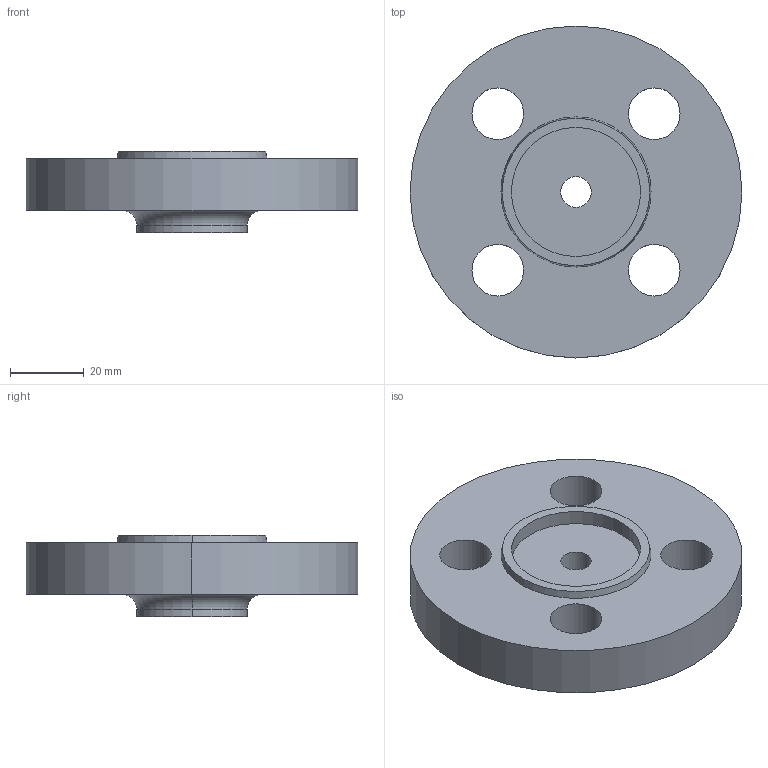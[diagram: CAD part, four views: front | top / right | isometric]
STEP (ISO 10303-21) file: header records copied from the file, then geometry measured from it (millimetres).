
FILE_DESCRIPTION (( 'STEP AP214' ), '1' );
FILE_NAME ('PN40 DN10 Type 13 - Type F Face.STEP', '2018-12-29T03:57:33', ( '' ), ( '' ), 'SwSTEP 2.0', 'SolidWorks 2019', '' );
FILE_SCHEMA (( 'AUTOMOTIVE_DESIGN' ));
Length unit declared in the file: millimetre
Products named in the file (1): PN40 DN10 Type 13 - Type F Face
Bounding box: 90 x 90 x 22 mm (x, y, z)
Volume: 82745.2 mm3; surface area: 19340.2 mm2
Topology: 1 solids, 1 shells, 25 faces, 58 edges, 38 vertices
Faces by surface type: cylinder 16, plane 5, torus 2, cone 2
Entity records: 790 total; most frequent: DIRECTION 150, CARTESIAN_POINT 122, ORIENTED_EDGE 116, AXIS2_PLACEMENT_3D 66, EDGE_CURVE 58, CIRCLE 40, EDGE_LOOP 38, VERTEX_POINT 38
